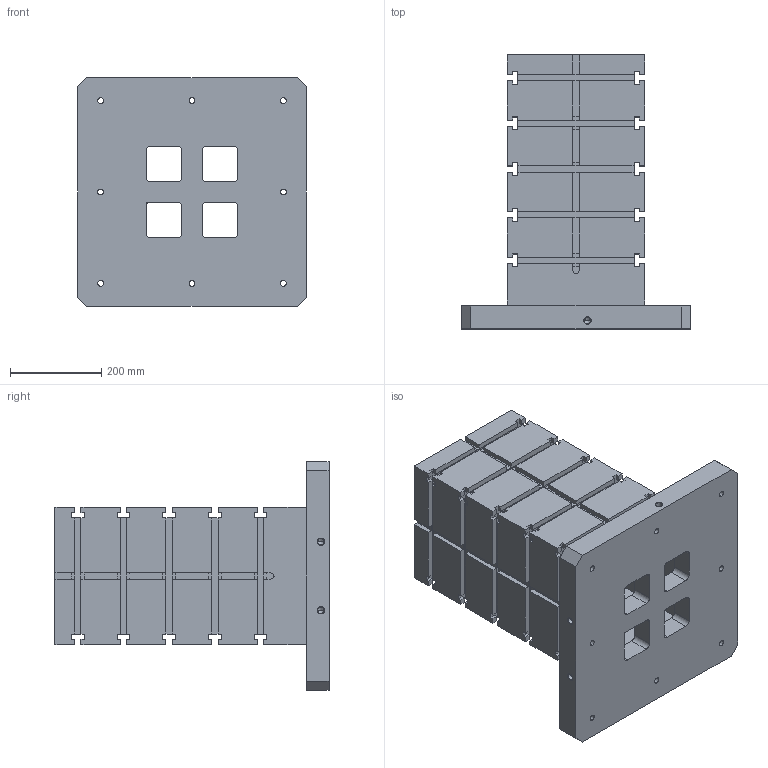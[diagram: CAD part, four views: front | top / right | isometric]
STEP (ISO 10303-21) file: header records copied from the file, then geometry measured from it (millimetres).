
FILE_DESCRIPTION((''),'2;1');
FILE_NAME('FG_WH_TOMB_SQTSLNP003','2026-05-19T16:36:25',('Admin'),(''),'CREO PARAMETRIC BY PTC INC, 2025010','CREO PARAMETRIC BY PTC INC, 2025010','');
FILE_SCHEMA(('CONFIG_CONTROL_DESIGN'));
Length unit declared in the file: millimetre
Products named in the file (1): FG_WH_TOMB_SQTSLNP003
Bounding box: 500 x 600 x 500 mm (x, y, z)
Volume: 33242074.3 mm3; surface area: 2324103.5 mm2
Topology: 1 solids, 4 shells, 604 faces, 1725 edges, 1147 vertices
Faces by surface type: plane 509, cylinder 89, cone 6
Entity records: 19521 total; most frequent: CARTESIAN_POINT 3471, ORIENTED_EDGE 3426, DIRECTION 3113, EDGE_CURVE 1719, VECTOR 1535, LINE 1535, VERTEX_POINT 1147, AXIS2_PLACEMENT_3D 789
